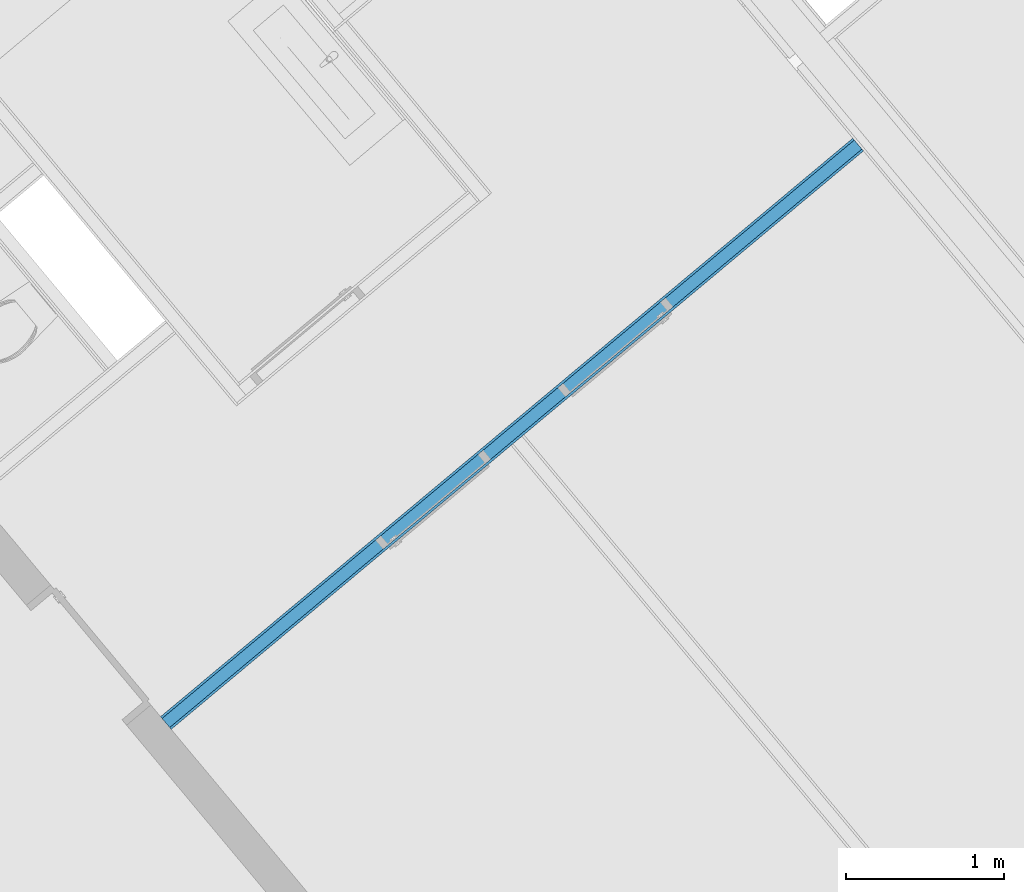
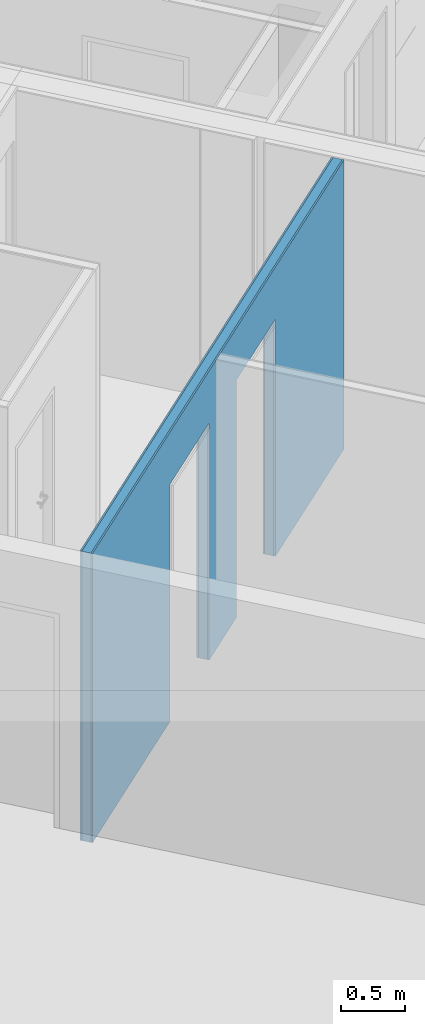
# One storey, part 10 of 50: 3 building element parts, 2 openings, 1 element without a shape of its own.
"""IFC4 building model written with IfcOpenShell, lengths in metres."""

from ifc_helpers import new_model, entity, si_unit, converted_unit, derived_unit, direction, frame, origin_with_axes, place, context, subcontext, project, spatial, polygons, material, type_object, element, aggregate, save


model = new_model("IFC4")

# Units and contexts
model_context = context("Model", 3, precision=1e-05, world=origin_with_axes(), true_north=direction((0.0, 1.0)))
body_context = subcontext(model_context, "Body", "Model", "MODEL_VIEW")
ifc_project = project(units=[si_unit("LENGTHUNIT", "METRE"), si_unit("AREAUNIT", "SQUARE_METRE"), si_unit("VOLUMEUNIT", "CUBIC_METRE"), converted_unit("PLANEANGLEUNIT", "DEGREE", entity("IfcPlaneAngleMeasure", 0.0174532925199), si_unit("PLANEANGLEUNIT", "RADIAN"), dimensions=[0, 0, 0, 0, 0, 0, 0]), converted_unit("TIMEUNIT", "Year", entity("IfcTimeMeasure", 31556926.0), si_unit("TIMEUNIT", "SECOND"), dimensions=[0, 0, 1, 0, 0, 0, 0]), si_unit("MASSUNIT", "GRAM", prefix="KILO"), si_unit("THERMODYNAMICTEMPERATUREUNIT", "DEGREE_CELSIUS"), si_unit("LUMINOUSINTENSITYUNIT", "LUMEN"), si_unit("ENERGYUNIT", "JOULE", prefix="MEGA"), derived_unit("THERMALCONDUCTANCEUNIT", [(si_unit("POWERUNIT", "WATT"), 1), (si_unit("LENGTHUNIT", "METRE"), -1), (si_unit("THERMODYNAMICTEMPERATUREUNIT", "KELVIN"), -1)]), derived_unit("SPECIFICHEATCAPACITYUNIT", [(si_unit("ENERGYUNIT", "JOULE"), 1), (si_unit("MASSUNIT", "GRAM", prefix="KILO"), -1), (si_unit("THERMODYNAMICTEMPERATUREUNIT", "KELVIN"), -1)]), derived_unit("MASSDENSITYUNIT", [(si_unit("MASSUNIT", "GRAM", prefix="KILO"), 1), (si_unit("VOLUMEUNIT", "CUBIC_METRE"), -1)])], contexts=[model_context])

# Site, building, storey
site_placement = place(None, frame((-0.00153261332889, -0.00661245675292, 0.0), z_axis=(0.0, 0.0, 1.0), x_axis=(1.0, 0.0, 0.0)))
site = spatial("IfcSite", under=ifc_project, at=site_placement, Name="Site", CompositionType="ELEMENT")
building_placement = place(site_placement, origin_with_axes())
building = spatial("IfcBuilding", under=site, at=building_placement, Name="Building", CompositionType="ELEMENT")
storey_placement = place(building_placement, frame((0.0, 0.0, 2.74), z_axis=(0.0, 0.0, 1.0), x_axis=(1.0, 0.0, 0.0)))
storey = spatial("IfcBuildingStorey", under=building, at=storey_placement, Name="OG1", CompositionType="ELEMENT", Elevation=2.74)

# Wall, openings, building element parts
wall_type = type_object("IfcWallType", Name="IW LB 01 Leichtbautrennwand einfach 10,5 cm 105", PredefinedType="NOTDEFINED")
wall_placement = place(storey_placement, frame((4.97586165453, 20.0436517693, 0.0), z_axis=(0.0, 0.0, 1.0), x_axis=(-0.767365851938, -0.641209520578, 0.0)))
wall = element("IfcWall", 1, at=wall_placement, inside=storey, type_object=wall_type, Name="Wand-012", PredefinedType="NOTDEFINED")
opening_1_placement = place(wall_placement, frame((3.50803466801, 0.0, 0.22), z_axis=(0.0, 0.0, 1.0), x_axis=(1.0, 0.0, 0.0)))
element("IfcOpeningElement", 2, at=opening_1_placement, cuts=wall, Name="Tür-016", context=body_context, identifier="Reference", shape_type="Tessellation", body=[
    polygons([(-0.445, -2.91765554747, 2.045), (-0.445, -2.91765554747, -0.22), (0.445, -2.91765554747, -0.22), (0.445, -2.91765554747, 2.045), (-0.445, 2.81265554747, 2.045), (-0.445, 2.81265554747, -0.22), (0.445, 2.81265554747, -0.22), (0.445, 2.81265554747, 2.045)], [[[1, 2, 3, 4]], [[5, 6, 2, 1]], [[6, 7, 3, 2]], [[7, 8, 4, 3]], [[8, 5, 1, 4]], [[7, 6, 5, 8]]], closed=True),
])
opening_2_placement = place(wall_placement, frame((2.00304118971, 0.0, 0.22), z_axis=(0.0, 0.0, 1.0), x_axis=(1.0, 0.0, 0.0)))
element("IfcOpeningElement", 3, at=opening_2_placement, cuts=wall, Name="Tür-016", context=body_context, identifier="Reference", shape_type="Tessellation", body=[
    polygons([(-0.445, -2.91765554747, 2.045), (-0.445, -2.91765554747, -0.22), (0.445, -2.91765554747, -0.22), (0.445, -2.91765554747, 2.045), (-0.445, 2.81265554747, 2.045), (-0.445, 2.81265554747, -0.22), (0.445, 2.81265554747, -0.22), (0.445, 2.81265554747, 2.045)], [[[1, 2, 3, 4]], [[5, 6, 2, 1]], [[6, 7, 3, 2]], [[7, 8, 4, 3]], [[8, 5, 1, 4]], [[7, 6, 5, 8]]], closed=True),
])
ifc_material_1 = material(Name="Gipskarton")
building_element_part_1_placement = place(wall_placement, origin_with_axes())
building_element_part_1 = element("IfcBuildingElementPart", 4, at=building_element_part_1_placement, material=ifc_material_1, Name="Gipskarton", PredefinedType="NOTDEFINED", context=body_context, shape_type="Tessellation", body=[
    polygons([(2.44804118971, 5.07949771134e-09, 0.22), (2.44804118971, 9.54859658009e-09, 2.265), (1.55804118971, 9.54859658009e-09, 2.265), (1.55804118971, 2.1756141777e-08, 0.22), (1.55804118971, 2.17561400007e-08, 0.0), (0.0, 0.0, 0.0), (0.0, 0.0, 2.76), (5.71425587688, 0.0, 2.76), (5.71425587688, 0.0, 0.0), (3.95303466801, 9.54859658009e-09, 0.0), (3.95303466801, 9.54859658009e-09, 0.22), (3.95303466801, -2.80242105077e-08, 2.265), (3.06303466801, -2.80242122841e-08, 2.265), (3.06303466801, -2.80242122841e-08, 0.22), (3.06303469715, -2.80242105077e-08, 0.0), (2.44804118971, 5.07949948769e-09, 0.0), (2.44804118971, -0.015, 0.22), (2.44804118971, -0.015, 2.265), (1.55804118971, -0.015, 2.265), (1.55804118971, -0.015, 0.22), (1.55804118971, -0.015, 0.0), (0.0, -0.015, 0.0), (0.0, -0.015, 2.76), (5.71425587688, -0.015, 2.76), (5.71425587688, -0.015, 0.0), (3.95303466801, -0.015, 0.0), (3.95303466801, -0.015, 0.22), (3.95303466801, -0.015, 2.265), (3.06303466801, -0.015, 2.265), (3.06303466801, -0.015, 0.22), (3.06303469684, -0.015, 0.0), (2.44804118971, -0.015, 0.0)], [[[1, 2, 3, 4, 5, 6, 7, 8, 9, 10, 11, 12, 13, 14, 15, 16]], [[2, 1, 17, 18]], [[3, 2, 18, 19]], [[4, 3, 19, 20]], [[4, 20, 21, 5]], [[22, 6, 5, 21]], [[7, 6, 22, 23]], [[7, 23, 24, 8]], [[25, 9, 8, 24]], [[9, 25, 26, 10]], [[11, 10, 26, 27]], [[11, 27, 28, 12]], [[12, 28, 29, 13]], [[13, 29, 30, 14]], [[30, 31, 15, 14]], [[32, 16, 15, 31]], [[17, 1, 16, 32]], [[18, 17, 32, 31, 30, 29, 28, 27, 26, 25, 24, 23, 22, 21, 20, 19]]], closed=True),
])
ifc_material_2 = material(Name="Mineralwolle weich")
building_element_part_2_placement = place(wall_placement, origin_with_axes())
building_element_part_2 = element("IfcBuildingElementPart", 5, at=building_element_part_2_placement, material=ifc_material_2, Name="Mineralwolle weich", PredefinedType="NOTDEFINED", context=body_context, shape_type="Tessellation", body=[
    polygons([(2.44804118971, -0.015, 0.22), (2.44804118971, -0.015, 2.265), (1.55804118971, -0.015, 2.265), (1.55804118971, -0.015, 0.22), (1.55804118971, -0.015, 0.0), (0.0, -0.015, 0.0), (0.0, -0.015, 2.76), (5.71425587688, -0.015, 2.76), (5.71425587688, -0.015, 0.0), (3.95303466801, -0.015, 0.0), (3.95303466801, -0.015, 0.22), (3.95303466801, -0.015, 2.265), (3.06303466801, -0.015, 2.265), (3.06303466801, -0.015, 0.22), (3.06303469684, -0.015, 0.0), (2.44804118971, -0.015, 0.0), (2.44804118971, -0.09, 0.22), (2.44804118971, -0.09, 2.265), (1.55804118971, -0.09, 2.265), (1.55804118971, -0.09, 0.22), (1.55804118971, -0.09, 0.0), (0.0, -0.09, 0.0), (0.0, -0.09, 2.76), (5.71425587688, -0.09, 2.76), (5.71425587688, -0.09, 0.0), (3.95303466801, -0.09, 0.0), (3.95303466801, -0.09, 0.22), (3.95303466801, -0.09, 2.265), (3.06303466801, -0.09, 2.265), (3.06303466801, -0.09, 0.22), (3.0630346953, -0.09, 0.0), (2.44804118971, -0.09, 0.0)], [[[1, 2, 3, 4, 5, 6, 7, 8, 9, 10, 11, 12, 13, 14, 15, 16]], [[2, 1, 17, 18]], [[3, 2, 18, 19]], [[4, 3, 19, 20]], [[4, 20, 21, 5]], [[22, 6, 5, 21]], [[7, 6, 22, 23]], [[7, 23, 24, 8]], [[25, 9, 8, 24]], [[9, 25, 26, 10]], [[11, 10, 26, 27]], [[11, 27, 28, 12]], [[12, 28, 29, 13]], [[13, 29, 30, 14]], [[30, 31, 15, 14]], [[32, 16, 15, 31]], [[17, 1, 16, 32]], [[18, 17, 32, 31, 30, 29, 28, 27, 26, 25, 24, 23, 22, 21, 20, 19]]], closed=True),
])
building_element_part_3_placement = place(wall_placement, origin_with_axes())
building_element_part_3 = element("IfcBuildingElementPart", 6, at=building_element_part_3_placement, material=ifc_material_1, Name="Gipskarton", PredefinedType="NOTDEFINED", context=body_context, shape_type="Tessellation", body=[
    polygons([(2.44804118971, -0.09, 0.22), (2.44804118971, -0.09, 2.265), (1.55804118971, -0.09, 2.265), (1.55804118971, -0.09, 0.22), (1.55804118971, -0.09, 0.0), (0.0, -0.09, 0.0), (0.0, -0.09, 2.76), (5.71425587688, -0.09, 2.76), (5.71425587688, -0.09, 0.0), (3.95303466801, -0.09, 0.0), (3.95303466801, -0.09, 0.22), (3.95303466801, -0.09, 2.265), (3.06303466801, -0.09, 2.265), (3.06303466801, -0.09, 0.22), (3.0630346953, -0.09, 0.0), (2.44804118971, -0.09, 0.0), (2.44804118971, -0.105, 0.22), (2.44804118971, -0.105, 2.265), (1.55804118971, -0.105, 2.265), (1.55804118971, -0.105, 0.22), (1.55804118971, -0.105, 0.0), (0.0, -0.105, 0.0), (0.0, -0.105, 2.76), (5.71425587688, -0.105, 2.76), (5.71425587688, -0.105, 0.0), (3.95303466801, -0.105, 0.0), (3.95303466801, -0.105, 0.22), (3.95303466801, -0.105, 2.265), (3.06303466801, -0.105, 2.265), (3.06303466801, -0.105, 0.22), (3.06303469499, -0.105, 0.0), (2.44804118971, -0.105, 0.0)], [[[1, 2, 3, 4, 5, 6, 7, 8, 9, 10, 11, 12, 13, 14, 15, 16]], [[2, 1, 17, 18]], [[3, 2, 18, 19]], [[4, 3, 19, 20]], [[4, 20, 21, 5]], [[22, 6, 5, 21]], [[7, 6, 22, 23]], [[7, 23, 24, 8]], [[25, 9, 8, 24]], [[9, 25, 26, 10]], [[11, 10, 26, 27]], [[11, 27, 28, 12]], [[12, 28, 29, 13]], [[13, 29, 30, 14]], [[30, 31, 15, 14]], [[32, 16, 15, 31]], [[17, 1, 16, 32]], [[18, 17, 32, 31, 30, 29, 28, 27, 26, 25, 24, 23, 22, 21, 20, 19]]], closed=True),
])
aggregate(wall, [building_element_part_1, building_element_part_2, building_element_part_3])

save(model, "model.ifc")
